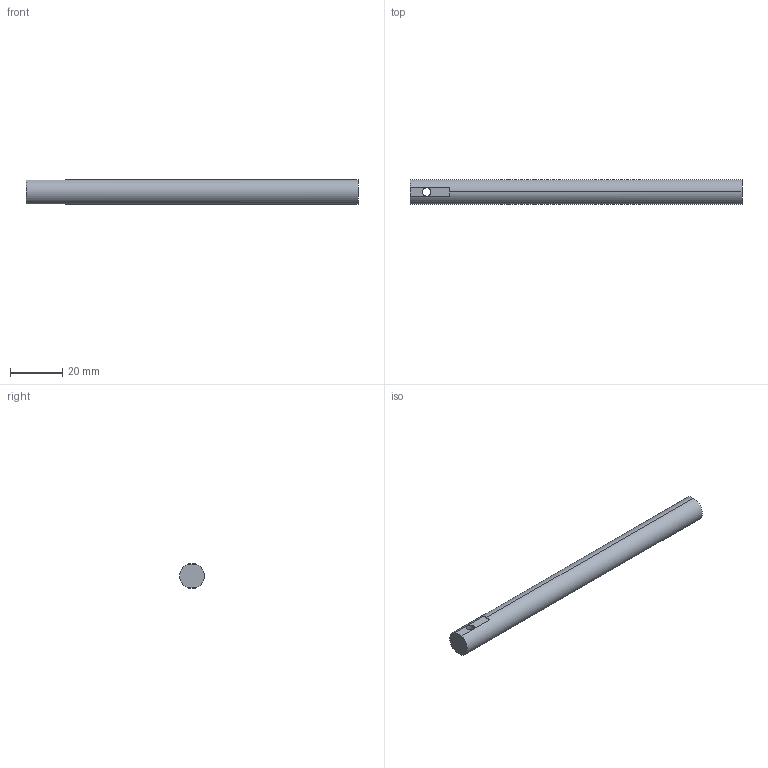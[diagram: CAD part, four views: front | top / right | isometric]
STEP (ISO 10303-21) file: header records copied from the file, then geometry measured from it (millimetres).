
FILE_DESCRIPTION (( 'STEP AP214' ), '1' );
FILE_NAME ('375_rod_6in.STEP', '2015-04-17T00:01:16', ( '' ), ( '' ), 'SwSTEP 2.0', 'SolidWorks 2012', '' );
FILE_SCHEMA (( 'AUTOMOTIVE_DESIGN' ));
Length unit declared in the file: inch
Products named in the file (1): 375_rod_6in
Bounding box: 127 x 9.53 x 9.53 mm (x, y, z)
Volume: 8956.9 mm3; surface area: 4013.3 mm2
Topology: 1 solids, 1 shells, 10 faces, 24 edges, 16 vertices
Faces by surface type: plane 6, cylinder 4
Entity records: 344 total; most frequent: DIRECTION 58, CARTESIAN_POINT 51, ORIENTED_EDGE 48, EDGE_CURVE 24, AXIS2_PLACEMENT_3D 23, VERTEX_POINT 16, EDGE_LOOP 12, VECTOR 12
